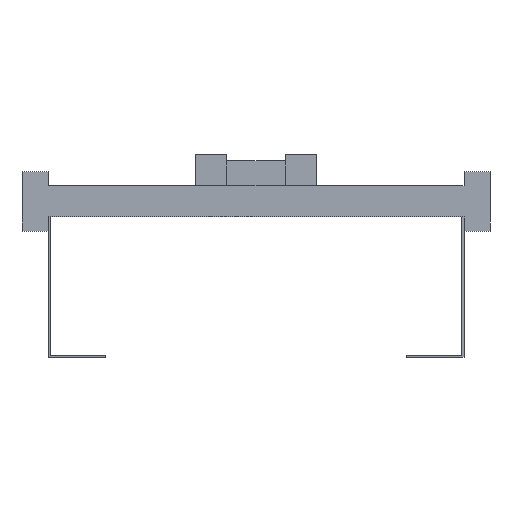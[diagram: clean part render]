
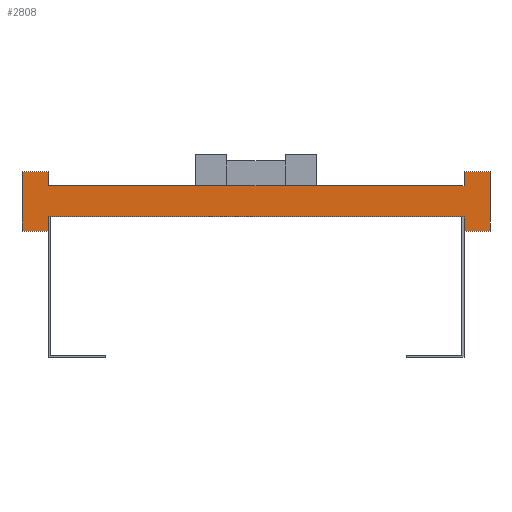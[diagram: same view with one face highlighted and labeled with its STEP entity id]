
A CAD part, front view. The second image highlights one B-rep face of the part: STEP entity #2808.
In plain terms, the highlighted planar face has unit normal (0, -1, 0).
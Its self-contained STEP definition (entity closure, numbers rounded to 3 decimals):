
#1=DIRECTION('',(0.,0.,1.));
#2=VECTOR('',#1,13.5);
#3=CARTESIAN_POINT('',(200.,0.,-28.5));
#4=LINE('',#3,#2);
#5=DIRECTION('',(0.,0.,-1.));
#6=VECTOR('',#5,13.5);
#7=CARTESIAN_POINT('',(-200.,0.,-15.));
#8=LINE('',#7,#6);
#9=DIRECTION('',(-1.,0.,0.));
#10=VECTOR('',#9,25.);
#11=CARTESIAN_POINT('',(-200.,0.,-28.5));
#12=LINE('',#11,#10);
#13=DIRECTION('',(0.,0.,1.));
#14=VECTOR('',#13,57.);
#15=CARTESIAN_POINT('',(-225.,0.,-28.5));
#16=LINE('',#15,#14);
#17=DIRECTION('',(1.,0.,0.));
#18=VECTOR('',#17,25.);
#19=CARTESIAN_POINT('',(-225.,0.,28.5));
#20=LINE('',#19,#18);
#21=DIRECTION('',(0.,0.,-1.));
#22=VECTOR('',#21,13.5);
#23=CARTESIAN_POINT('',(-200.,0.,28.5));
#24=LINE('',#23,#22);
#25=DIRECTION('',(0.,0.,1.));
#26=VECTOR('',#25,13.5);
#27=CARTESIAN_POINT('',(200.,0.,15.));
#28=LINE('',#27,#26);
#29=DIRECTION('',(1.,0.,0.));
#30=VECTOR('',#29,25.);
#31=CARTESIAN_POINT('',(200.,0.,28.5));
#32=LINE('',#31,#30);
#33=DIRECTION('',(0.,0.,-1.));
#34=VECTOR('',#33,57.);
#35=CARTESIAN_POINT('',(225.,0.,28.5));
#36=LINE('',#35,#34);
#37=DIRECTION('',(-1.,0.,0.));
#38=VECTOR('',#37,25.);
#39=CARTESIAN_POINT('',(225.,0.,-28.5));
#40=LINE('',#39,#38);
#2105=DIRECTION('',(1.,0.,0.));
#2106=VECTOR('',#2105,400.);
#2107=CARTESIAN_POINT('',(-200.,0.,-15.));
#2108=LINE('',#2107,#2106);
#2117=DIRECTION('',(1.,0.,0.));
#2118=VECTOR('',#2117,400.);
#2119=CARTESIAN_POINT('',(-200.,0.,15.));
#2120=LINE('',#2119,#2118);
#2121=CARTESIAN_POINT('',(-225.,0.,28.5));
#2122=CARTESIAN_POINT('',(-200.,0.,28.5));
#2123=VERTEX_POINT('',#2121);
#2124=VERTEX_POINT('',#2122);
#2125=CARTESIAN_POINT('',(-200.,0.,-28.5));
#2126=CARTESIAN_POINT('',(-225.,0.,-28.5));
#2127=VERTEX_POINT('',#2125);
#2128=VERTEX_POINT('',#2126);
#2129=CARTESIAN_POINT('',(225.,0.,28.5));
#2130=CARTESIAN_POINT('',(225.,0.,-28.5));
#2131=VERTEX_POINT('',#2129);
#2132=VERTEX_POINT('',#2130);
#2133=CARTESIAN_POINT('',(200.,0.,-28.5));
#2134=VERTEX_POINT('',#2133);
#2135=CARTESIAN_POINT('',(200.,0.,28.5));
#2136=VERTEX_POINT('',#2135);
#2153=CARTESIAN_POINT('',(-200.,0.,-15.));
#2155=VERTEX_POINT('',#2153);
#2157=CARTESIAN_POINT('',(-200.,0.,15.));
#2159=VERTEX_POINT('',#2157);
#2161=CARTESIAN_POINT('',(200.,0.,-15.));
#2163=VERTEX_POINT('',#2161);
#2165=CARTESIAN_POINT('',(200.,0.,15.));
#2167=VERTEX_POINT('',#2165);
#2777=CARTESIAN_POINT('',(0.,0.,0.));
#2778=DIRECTION('',(0.,1.,0.));
#2779=DIRECTION('',(1.,0.,0.));
#2780=AXIS2_PLACEMENT_3D('',#2777,#2778,#2779);
#2781=PLANE('',#2780);
#2783=ORIENTED_EDGE('',*,*,#2782,.T.);
#2785=ORIENTED_EDGE('',*,*,#2784,.F.);
#2787=ORIENTED_EDGE('',*,*,#2786,.T.);
#2789=ORIENTED_EDGE('',*,*,#2788,.T.);
#2791=ORIENTED_EDGE('',*,*,#2790,.T.);
#2793=ORIENTED_EDGE('',*,*,#2792,.T.);
#2795=ORIENTED_EDGE('',*,*,#2794,.T.);
#2797=ORIENTED_EDGE('',*,*,#2796,.T.);
#2799=ORIENTED_EDGE('',*,*,#2798,.T.);
#2801=ORIENTED_EDGE('',*,*,#2800,.T.);
#2803=ORIENTED_EDGE('',*,*,#2802,.T.);
#2805=ORIENTED_EDGE('',*,*,#2804,.T.);
#2806=EDGE_LOOP('',(#2783,#2785,#2787,#2789,#2791,#2793,#2795,#2797,#2799,#2801,
#2803,#2805));
#2807=FACE_OUTER_BOUND('',#2806,.F.);
#2808=ADVANCED_FACE('',(#2807),#2781,.F.);
#2782=EDGE_CURVE('',#2134,#2163,#4,.T.);
#2784=EDGE_CURVE('',#2155,#2163,#2108,.T.);
#2786=EDGE_CURVE('',#2155,#2127,#8,.T.);
#2788=EDGE_CURVE('',#2127,#2128,#12,.T.);
#2790=EDGE_CURVE('',#2128,#2123,#16,.T.);
#2792=EDGE_CURVE('',#2123,#2124,#20,.T.);
#2794=EDGE_CURVE('',#2124,#2159,#24,.T.);
#2796=EDGE_CURVE('',#2159,#2167,#2120,.T.);
#2798=EDGE_CURVE('',#2167,#2136,#28,.T.);
#2800=EDGE_CURVE('',#2136,#2131,#32,.T.);
#2802=EDGE_CURVE('',#2131,#2132,#36,.T.);
#2804=EDGE_CURVE('',#2132,#2134,#40,.T.);
